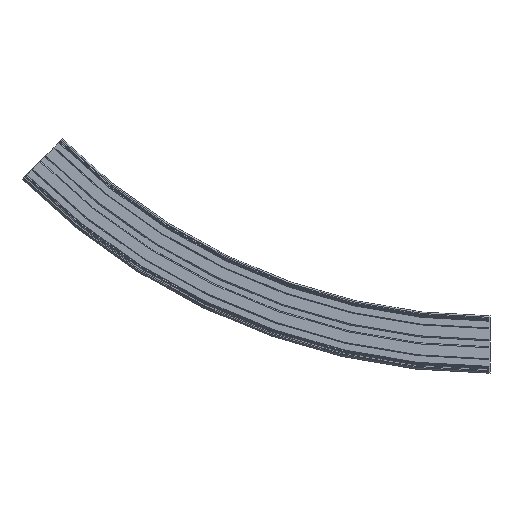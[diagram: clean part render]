
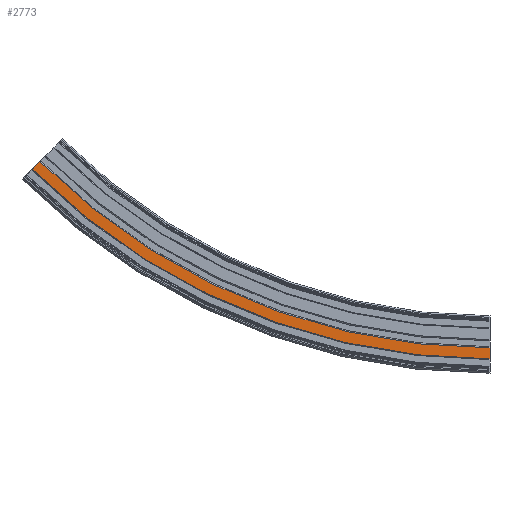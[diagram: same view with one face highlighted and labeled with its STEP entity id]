
A CAD part, left-side view. The second image highlights one B-rep face of the part: STEP entity #2773.
In plain terms, the highlighted planar face has unit normal (-1, 0, 0).
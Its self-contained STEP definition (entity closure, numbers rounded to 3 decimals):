
#267=CIRCLE('',#3020,865.5);
#268=CIRCLE('',#3022,880.5);
#442=FACE_OUTER_BOUND('',#596,.T.);
#596=EDGE_LOOP('',(#2171,#2172,#2173,#2174));
#773=LINE('',#9181,#979);
#774=LINE('',#9183,#980);
#979=VECTOR('',#3622,10.);
#980=VECTOR('',#3623,10.);
#1235=VERTEX_POINT('',#9174);
#1236=VERTEX_POINT('',#9176);
#1237=VERTEX_POINT('',#9180);
#1238=VERTEX_POINT('',#9182);
#1602=EDGE_CURVE('',#1235,#1236,#267,.T.);
#1603=EDGE_CURVE('',#1237,#1235,#773,.T.);
#1604=EDGE_CURVE('',#1238,#1236,#774,.T.);
#1605=EDGE_CURVE('',#1237,#1238,#268,.T.);
#2171=ORIENTED_EDGE('',*,*,#1603,.T.);
#2172=ORIENTED_EDGE('',*,*,#1602,.T.);
#2173=ORIENTED_EDGE('',*,*,#1604,.F.);
#2174=ORIENTED_EDGE('',*,*,#1605,.F.);
#2663=PLANE('',#3021);
#2773=ADVANCED_FACE('',(#442),#2663,.T.);
#3020=AXIS2_PLACEMENT_3D('',#9178,#3618,#3619);
#3021=AXIS2_PLACEMENT_3D('',#9179,#3620,#3621);
#3022=AXIS2_PLACEMENT_3D('',#9184,#3624,#3625);
#3618=DIRECTION('center_axis',(1.,0.,0.));
#3619=DIRECTION('ref_axis',(0.,0.,-1.));
#3620=DIRECTION('center_axis',(-1.,0.,0.));
#3621=DIRECTION('ref_axis',(0.,0.,1.));
#3622=DIRECTION('',(0.,0.,1.));
#3623=DIRECTION('',(0.,-0.707,0.707));
#3624=DIRECTION('center_axis',(1.,0.,0.));
#3625=DIRECTION('ref_axis',(0.,0.,-1.));
#9174=CARTESIAN_POINT('',(-32.,0.,-5.5));
#9176=CARTESIAN_POINT('',(-32.,612.001,247.999));
#9178=CARTESIAN_POINT('Origin',(-32.,0.,860.));
#9179=CARTESIAN_POINT('Origin',(-32.,0.,-20.5));
#9180=CARTESIAN_POINT('',(-32.,0.,-20.5));
#9181=CARTESIAN_POINT('',(-32.,0.,-20.5));
#9182=CARTESIAN_POINT('',(-32.,622.608,237.392));
#9183=CARTESIAN_POINT('',(-32.,622.608,237.392));
#9184=CARTESIAN_POINT('Origin',(-32.,0.,860.));
